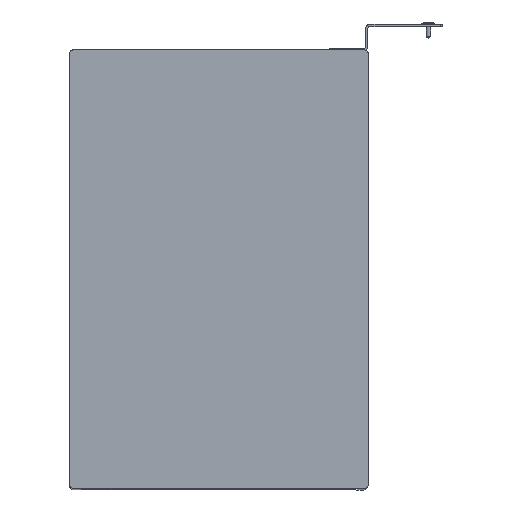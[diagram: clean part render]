
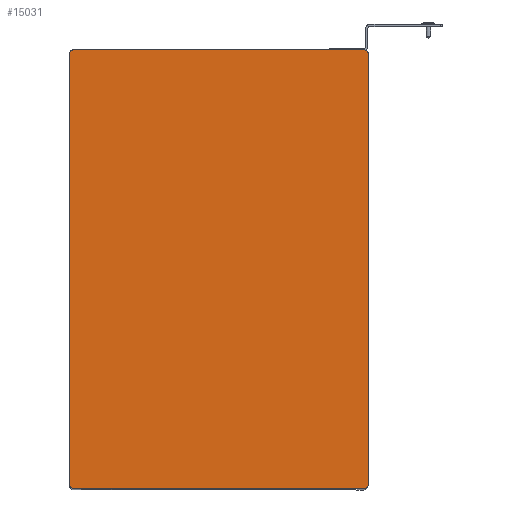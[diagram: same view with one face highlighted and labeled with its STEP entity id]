
A CAD part, top view. The second image highlights one B-rep face of the part: STEP entity #15031.
In plain terms, the highlighted planar face has unit normal (0, 0, 1).
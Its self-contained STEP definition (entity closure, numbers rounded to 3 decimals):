
#1119=CIRCLE('',#17179,4.);
#1120=CIRCLE('',#17180,4.);
#1121=CIRCLE('',#17181,4.);
#1122=CIRCLE('',#17182,4.);
#3674=ORIENTED_EDGE('',*,*,#6689,.T.);
#3675=ORIENTED_EDGE('',*,*,#6699,.T.);
#3676=ORIENTED_EDGE('',*,*,#6691,.T.);
#3677=ORIENTED_EDGE('',*,*,#6700,.T.);
#3678=ORIENTED_EDGE('',*,*,#6697,.T.);
#3679=ORIENTED_EDGE('',*,*,#6701,.T.);
#3680=ORIENTED_EDGE('',*,*,#6685,.T.);
#3681=ORIENTED_EDGE('',*,*,#6702,.T.);
#6685=EDGE_CURVE('',#8400,#8399,#9678,.T.);
#6689=EDGE_CURVE('',#8404,#8403,#9682,.T.);
#6691=EDGE_CURVE('',#8405,#8406,#9684,.T.);
#6697=EDGE_CURVE('',#8412,#8411,#9690,.T.);
#6699=EDGE_CURVE('',#8403,#8405,#1119,.T.);
#6700=EDGE_CURVE('',#8406,#8412,#1120,.T.);
#6701=EDGE_CURVE('',#8411,#8400,#1121,.T.);
#6702=EDGE_CURVE('',#8399,#8404,#1122,.T.);
#8399=VERTEX_POINT('',#25034);
#8400=VERTEX_POINT('',#25036);
#8403=VERTEX_POINT('',#25043);
#8404=VERTEX_POINT('',#25045);
#8405=VERTEX_POINT('',#25049);
#8406=VERTEX_POINT('',#25050);
#8411=VERTEX_POINT('',#25061);
#8412=VERTEX_POINT('',#25063);
#9678=LINE('',#25035,#10956);
#9682=LINE('',#25044,#10960);
#9684=LINE('',#25048,#10962);
#9690=LINE('',#25062,#10968);
#10956=VECTOR('',#20338,1000.);
#10960=VECTOR('',#20344,1000.);
#10962=VECTOR('',#20348,1000.);
#10968=VECTOR('',#20356,1000.);
#12270=EDGE_LOOP('',(#3674,#3675,#3676,#3677,#3678,#3679,#3680,#3681));
#13460=FACE_BOUND('',#12270,.T.);
#14286=PLANE('',#17178);
#15031=ADVANCED_FACE('',(#13460),#14286,.T.);
#17178=AXIS2_PLACEMENT_3D('',#25065,#20358,#20359);
#17179=AXIS2_PLACEMENT_3D('',#25066,#20360,#20361);
#17180=AXIS2_PLACEMENT_3D('',#25067,#20362,#20363);
#17181=AXIS2_PLACEMENT_3D('',#25068,#20364,#20365);
#17182=AXIS2_PLACEMENT_3D('',#25069,#20366,#20367);
#20338=DIRECTION('',(0.,-1.,0.));
#20344=DIRECTION('',(1.,0.,0.));
#20348=DIRECTION('',(0.,1.,0.));
#20356=DIRECTION('',(-1.,0.,0.));
#20358=DIRECTION('',(0.,0.,1.));
#20359=DIRECTION('',(1.,0.,0.));
#20360=DIRECTION('',(0.,0.,1.));
#20361=DIRECTION('',(1.,0.,0.));
#20362=DIRECTION('',(0.,0.,1.));
#20363=DIRECTION('',(1.,0.,0.));
#20364=DIRECTION('',(0.,0.,1.));
#20365=DIRECTION('',(1.,0.,0.));
#20366=DIRECTION('',(0.,0.,1.));
#20367=DIRECTION('',(1.,0.,0.));
#25034=CARTESIAN_POINT('',(-133.75,-192.,6.));
#25035=CARTESIAN_POINT('',(-133.75,196.,6.));
#25036=CARTESIAN_POINT('',(-133.75,192.,6.));
#25043=CARTESIAN_POINT('',(129.75,-196.,6.));
#25044=CARTESIAN_POINT('',(-133.75,-196.,6.));
#25045=CARTESIAN_POINT('',(-129.75,-196.,6.));
#25048=CARTESIAN_POINT('',(133.75,-196.,6.));
#25049=CARTESIAN_POINT('',(133.75,-192.,6.));
#25050=CARTESIAN_POINT('',(133.75,192.,6.));
#25061=CARTESIAN_POINT('',(-129.75,196.,6.));
#25062=CARTESIAN_POINT('',(133.75,196.,6.));
#25063=CARTESIAN_POINT('',(129.75,196.,6.));
#25065=CARTESIAN_POINT('',(-133.75,-196.,6.));
#25066=CARTESIAN_POINT('',(129.75,-192.,6.));
#25067=CARTESIAN_POINT('',(129.75,192.,6.));
#25068=CARTESIAN_POINT('',(-129.75,192.,6.));
#25069=CARTESIAN_POINT('',(-129.75,-192.,6.));
